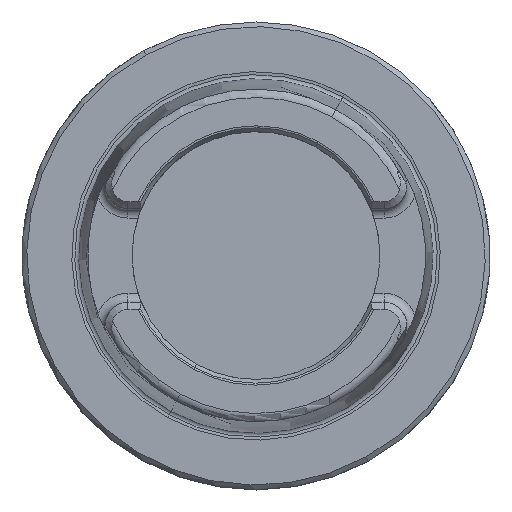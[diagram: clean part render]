
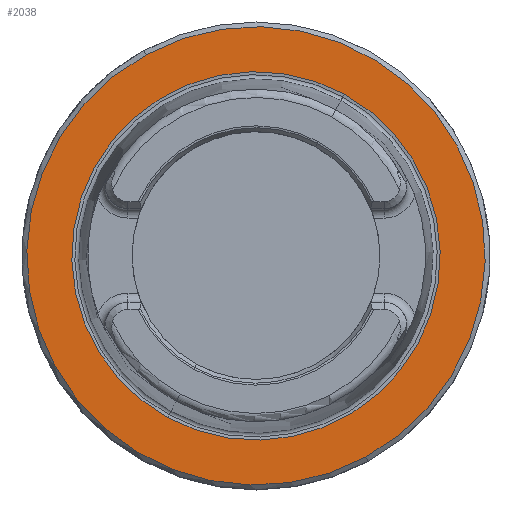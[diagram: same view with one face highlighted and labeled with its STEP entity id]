
A CAD part, top view. The second image highlights one B-rep face of the part: STEP entity #2038.
In plain terms, the highlighted planar face has unit normal (0, 0, 1).
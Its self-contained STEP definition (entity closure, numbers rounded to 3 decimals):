
#1975=AXIS2_PLACEMENT_3D('Circle Axis2P3D',#1973,#1974,$) ;
#2001=AXIS2_PLACEMENT_3D('Circle Axis2P3D',#1999,#2000,$) ;
#2014=AXIS2_PLACEMENT_3D('Plane Axis2P3D',#2011,#2012,#2013) ;
#2018=AXIS2_PLACEMENT_3D('Circle Axis2P3D',#2016,#2017,$) ;
#2027=AXIS2_PLACEMENT_3D('Circle Axis2P3D',#2025,#2026,$) ;
#1973=CARTESIAN_POINT('Axis2P3D Location',(0.,0.,0.)) ;
#1977=CARTESIAN_POINT('Vertex',(18.88,34.56,0.)) ;
#1979=CARTESIAN_POINT('Vertex',(-18.88,-34.56,0.)) ;
#1999=CARTESIAN_POINT('Axis2P3D Location',(0.,0.,0.)) ;
#2011=CARTESIAN_POINT('Axis2P3D Location',(0.,-38.285,0.)) ;
#2016=CARTESIAN_POINT('Axis2P3D Location',(0.,0.,0.)) ;
#2020=CARTESIAN_POINT('Vertex',(23.492,-43.002,0.)) ;
#2022=CARTESIAN_POINT('Vertex',(-23.492,43.002,0.)) ;
#2025=CARTESIAN_POINT('Axis2P3D Location',(0.,0.,0.)) ;
#1974=DIRECTION('Axis2P3D Direction',(0.,0.,1.)) ;
#2000=DIRECTION('Axis2P3D Direction',(0.,0.,1.)) ;
#2012=DIRECTION('Axis2P3D Direction',(0.,0.,-1.)) ;
#2013=DIRECTION('Axis2P3D XDirection',(-1.,0.,0.)) ;
#2017=DIRECTION('Axis2P3D Direction',(0.,0.,-1.)) ;
#2026=DIRECTION('Axis2P3D Direction',(0.,0.,-1.)) ;
#2031=ORIENTED_EDGE('',*,*,#2024,.F.) ;
#2032=ORIENTED_EDGE('',*,*,#2029,.F.) ;
#2035=ORIENTED_EDGE('',*,*,#1981,.T.) ;
#2036=ORIENTED_EDGE('',*,*,#2003,.T.) ;
#2037=FACE_BOUND('',#2034,.T.) ;
#2038=ADVANCED_FACE('NO_CUT',(#2033,#2037),#2015,.F.) ;
#1976=CIRCLE('generated circle',#1975,39.381) ;
#2002=CIRCLE('generated circle',#2001,39.381) ;
#2019=CIRCLE('generated circle',#2018,49.) ;
#2028=CIRCLE('generated circle',#2027,49.) ;
#1981=EDGE_CURVE('',#1978,#1980,#1976,.F.) ;
#2003=EDGE_CURVE('',#1980,#1978,#2002,.F.) ;
#2024=EDGE_CURVE('',#2021,#2023,#2019,.T.) ;
#2029=EDGE_CURVE('',#2023,#2021,#2028,.T.) ;
#2030=EDGE_LOOP('',(#2031,#2032)) ;
#2034=EDGE_LOOP('',(#2035,#2036)) ;
#2033=FACE_OUTER_BOUND('',#2030,.T.) ;
#2015=PLANE('',#2014) ;
#1978=VERTEX_POINT('',#1977) ;
#1980=VERTEX_POINT('',#1979) ;
#2021=VERTEX_POINT('',#2020) ;
#2023=VERTEX_POINT('',#2022) ;
